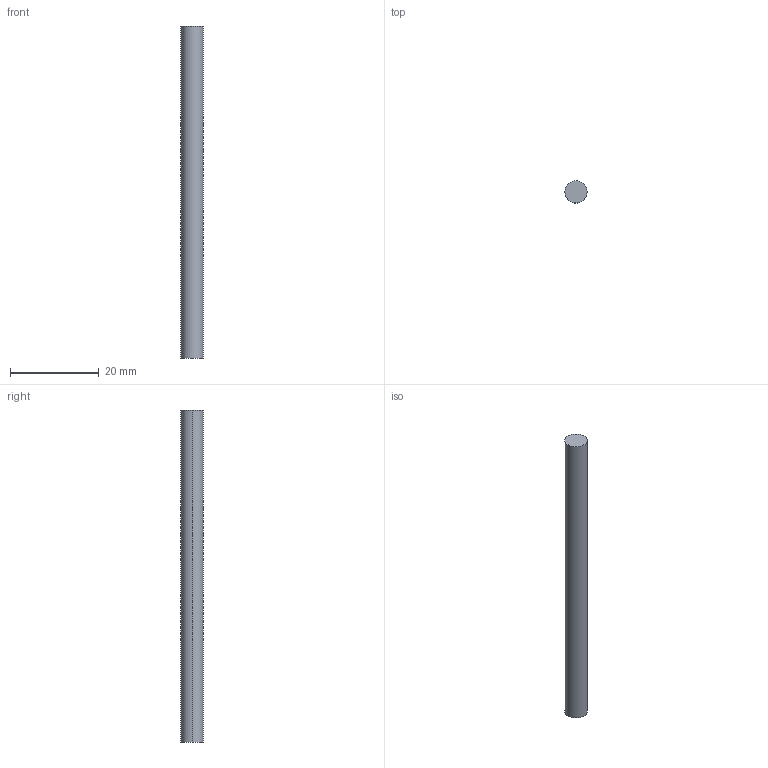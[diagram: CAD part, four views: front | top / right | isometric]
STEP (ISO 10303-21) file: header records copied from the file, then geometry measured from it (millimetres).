
FILE_DESCRIPTION (( 'STEP AP203' ), '1' );
FILE_NAME ('S-Q_Domyœlna_sldprt.STEP', '2024-05-21T11:40:30', ( '' ), ( '' ), 'SwSTEP 2.0', 'SolidWorks 2024', '' );
FILE_SCHEMA (( 'CONFIG_CONTROL_DESIGN' ));
Length unit declared in the file: millimetre
Products named in the file (1): S-Q_Domyślna_sldprt
Bounding box: 5 x 5 x 75 mm (x, y, z)
Volume: 1472.6 mm3; surface area: 1217.4 mm2
Topology: 1 solids, 1 shells, 4 faces, 6 edges, 4 vertices
Faces by surface type: cylinder 2, plane 2
Entity records: 171 total; most frequent: DIRECTION 20, CARTESIAN_POINT 15, ORIENTED_EDGE 12, AXIS2_PLACEMENT_3D 9, PERSON_AND_ORGANIZATION 8, EDGE_CURVE 6, DATE_AND_TIME 5, COORDINATED_UNIVERSAL_TIME_OFFSET 5
